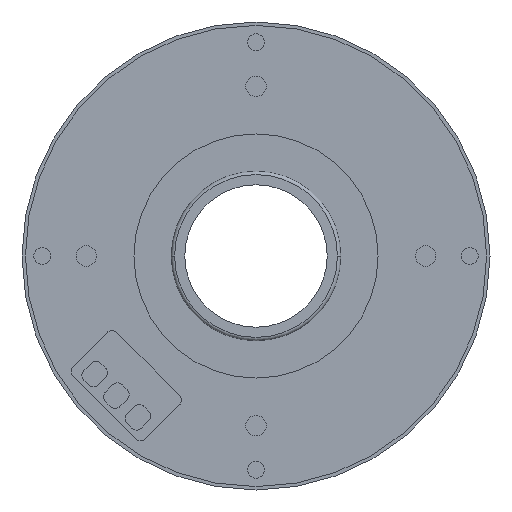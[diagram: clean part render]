
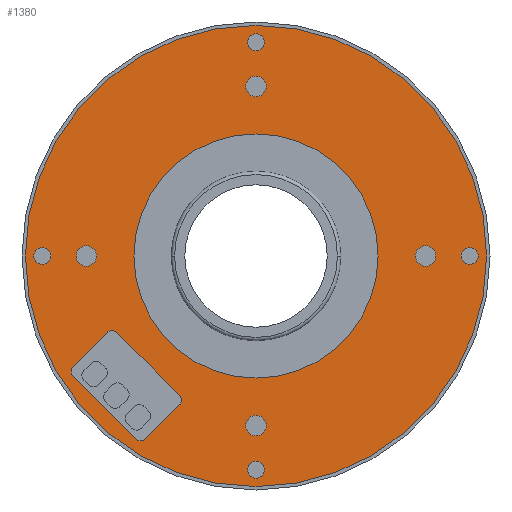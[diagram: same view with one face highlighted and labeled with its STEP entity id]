
A CAD part, front view. The second image highlights one B-rep face of the part: STEP entity #1380.
In plain terms, the highlighted planar face has unit normal (0, -1, 0).
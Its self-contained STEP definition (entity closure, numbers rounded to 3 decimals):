
#1=CARTESIAN_POINT('',(0.,0.,0.));
#2=DIRECTION('',(0.,-1.,0.));
#3=DIRECTION('',(-1.,0.,0.));
#4=AXIS2_PLACEMENT_3D('',#1,#2,#3);
#6=CARTESIAN_POINT('',(0.,0.,0.));
#7=DIRECTION('',(0.,-1.,0.));
#8=DIRECTION('',(1.,0.,0.));
#9=AXIS2_PLACEMENT_3D('',#6,#7,#8);
#11=CARTESIAN_POINT('',(0.,0.,25.));
#12=DIRECTION('',(0.,-1.,0.));
#13=DIRECTION('',(1.,0.,0.));
#14=AXIS2_PLACEMENT_3D('',#11,#12,#13);
#16=CARTESIAN_POINT('',(0.,0.,25.));
#17=DIRECTION('',(0.,-1.,0.));
#18=DIRECTION('',(-1.,0.,0.));
#19=AXIS2_PLACEMENT_3D('',#16,#17,#18);
#21=CARTESIAN_POINT('',(0.,0.,31.5));
#22=DIRECTION('',(0.,-1.,0.));
#23=DIRECTION('',(1.,0.,0.));
#24=AXIS2_PLACEMENT_3D('',#21,#22,#23);
#26=CARTESIAN_POINT('',(0.,0.,31.5));
#27=DIRECTION('',(0.,-1.,0.));
#28=DIRECTION('',(-1.,0.,0.));
#29=AXIS2_PLACEMENT_3D('',#26,#27,#28);
#31=CARTESIAN_POINT('',(25.,0.,0.));
#32=DIRECTION('',(0.,-1.,0.));
#33=DIRECTION('',(0.,0.,-1.));
#34=AXIS2_PLACEMENT_3D('',#31,#32,#33);
#36=CARTESIAN_POINT('',(25.,0.,0.));
#37=DIRECTION('',(0.,-1.,0.));
#38=DIRECTION('',(0.,0.,1.));
#39=AXIS2_PLACEMENT_3D('',#36,#37,#38);
#41=CARTESIAN_POINT('',(31.5,0.,0.));
#42=DIRECTION('',(0.,-1.,0.));
#43=DIRECTION('',(0.,0.,-1.));
#44=AXIS2_PLACEMENT_3D('',#41,#42,#43);
#46=CARTESIAN_POINT('',(31.5,0.,0.));
#47=DIRECTION('',(0.,-1.,0.));
#48=DIRECTION('',(0.,0.,1.));
#49=AXIS2_PLACEMENT_3D('',#46,#47,#48);
#51=CARTESIAN_POINT('',(0.,0.,-25.));
#52=DIRECTION('',(0.,-1.,0.));
#53=DIRECTION('',(-1.,0.,0.));
#54=AXIS2_PLACEMENT_3D('',#51,#52,#53);
#56=CARTESIAN_POINT('',(0.,0.,-25.));
#57=DIRECTION('',(0.,-1.,0.));
#58=DIRECTION('',(1.,0.,0.));
#59=AXIS2_PLACEMENT_3D('',#56,#57,#58);
#61=CARTESIAN_POINT('',(0.,0.,-31.5));
#62=DIRECTION('',(0.,-1.,0.));
#63=DIRECTION('',(-1.,0.,0.));
#64=AXIS2_PLACEMENT_3D('',#61,#62,#63);
#66=CARTESIAN_POINT('',(0.,0.,-31.5));
#67=DIRECTION('',(0.,-1.,0.));
#68=DIRECTION('',(1.,0.,0.));
#69=AXIS2_PLACEMENT_3D('',#66,#67,#68);
#71=CARTESIAN_POINT('',(-25.,0.,0.));
#72=DIRECTION('',(0.,-1.,0.));
#73=DIRECTION('',(0.,0.,1.));
#74=AXIS2_PLACEMENT_3D('',#71,#72,#73);
#76=CARTESIAN_POINT('',(-25.,0.,0.));
#77=DIRECTION('',(0.,-1.,0.));
#78=DIRECTION('',(0.,0.,-1.));
#79=AXIS2_PLACEMENT_3D('',#76,#77,#78);
#81=CARTESIAN_POINT('',(-31.5,0.,0.));
#82=DIRECTION('',(0.,-1.,0.));
#83=DIRECTION('',(0.,0.,1.));
#84=AXIS2_PLACEMENT_3D('',#81,#82,#83);
#86=CARTESIAN_POINT('',(-31.5,0.,0.));
#87=DIRECTION('',(0.,-1.,0.));
#88=DIRECTION('',(0.,0.,-1.));
#89=AXIS2_PLACEMENT_3D('',#86,#87,#88);
#91=CARTESIAN_POINT('',(0.,0.,0.));
#92=DIRECTION('',(0.,-1.,0.));
#93=DIRECTION('',(1.,0.,0.));
#94=AXIS2_PLACEMENT_3D('',#91,#92,#93);
#96=CARTESIAN_POINT('',(0.,0.,0.));
#97=DIRECTION('',(0.,-1.,0.));
#98=DIRECTION('',(-1.,0.,0.));
#99=AXIS2_PLACEMENT_3D('',#96,#97,#98);
#121=CARTESIAN_POINT('',(-21.249,0.,-11.985));
#122=DIRECTION('',(0.,-1.,0.));
#123=DIRECTION('',(0.707,0.,0.707));
#124=AXIS2_PLACEMENT_3D('',#121,#122,#123);
#126=DIRECTION('',(-0.707,0.,-0.707));
#127=VECTOR('',#126,7.1);
#128=CARTESIAN_POINT('',(-21.956,0.,-11.278));
#129=LINE('',#128,#127);
#130=CARTESIAN_POINT('',(-26.269,0.,-17.006));
#131=DIRECTION('',(0.,-1.,0.));
#132=DIRECTION('',(-0.707,0.,0.707));
#133=AXIS2_PLACEMENT_3D('',#130,#131,#132);
#135=DIRECTION('',(0.707,0.,-0.707));
#136=VECTOR('',#135,13.1);
#137=CARTESIAN_POINT('',(-26.976,0.,-17.713));
#138=LINE('',#137,#136);
#139=CARTESIAN_POINT('',(-17.006,0.,-26.269));
#140=DIRECTION('',(0.,-1.,0.));
#141=DIRECTION('',(-0.707,0.,-0.707));
#142=AXIS2_PLACEMENT_3D('',#139,#140,#141);
#144=DIRECTION('',(0.707,0.,0.707));
#145=VECTOR('',#144,7.1);
#146=CARTESIAN_POINT('',(-16.299,0.,-26.976));
#147=LINE('',#146,#145);
#148=CARTESIAN_POINT('',(-11.985,0.,-21.249));
#149=DIRECTION('',(0.,-1.,0.));
#150=DIRECTION('',(0.707,0.,-0.707));
#151=AXIS2_PLACEMENT_3D('',#148,#149,#150);
#153=DIRECTION('',(-0.707,0.,0.707));
#154=VECTOR('',#153,13.1);
#155=CARTESIAN_POINT('',(-11.278,0.,-20.541));
#156=LINE('',#155,#154);
#1049=CARTESIAN_POINT('',(-34.,0.,0.));
#1050=CARTESIAN_POINT('',(34.,0.,0.));
#1051=VERTEX_POINT('',#1049);
#1052=VERTEX_POINT('',#1050);
#1065=CARTESIAN_POINT('',(1.5,0.,25.));
#1066=CARTESIAN_POINT('',(-1.5,0.,25.));
#1067=VERTEX_POINT('',#1065);
#1068=VERTEX_POINT('',#1066);
#1069=CARTESIAN_POINT('',(1.25,0.,31.5));
#1070=CARTESIAN_POINT('',(-1.25,0.,31.5));
#1071=VERTEX_POINT('',#1069);
#1072=VERTEX_POINT('',#1070);
#1081=CARTESIAN_POINT('',(25.,0.,-1.5));
#1082=CARTESIAN_POINT('',(25.,0.,1.5));
#1083=VERTEX_POINT('',#1081);
#1084=VERTEX_POINT('',#1082);
#1085=CARTESIAN_POINT('',(31.5,0.,-1.25));
#1086=CARTESIAN_POINT('',(31.5,0.,1.25));
#1087=VERTEX_POINT('',#1085);
#1088=VERTEX_POINT('',#1086);
#1097=CARTESIAN_POINT('',(-1.5,0.,-25.));
#1098=CARTESIAN_POINT('',(1.5,0.,-25.));
#1099=VERTEX_POINT('',#1097);
#1100=VERTEX_POINT('',#1098);
#1101=CARTESIAN_POINT('',(-1.25,0.,-31.5));
#1102=CARTESIAN_POINT('',(1.25,0.,-31.5));
#1103=VERTEX_POINT('',#1101);
#1104=VERTEX_POINT('',#1102);
#1113=CARTESIAN_POINT('',(-25.,0.,1.5));
#1114=CARTESIAN_POINT('',(-25.,0.,-1.5));
#1115=VERTEX_POINT('',#1113);
#1116=VERTEX_POINT('',#1114);
#1117=CARTESIAN_POINT('',(-31.5,0.,1.25));
#1118=CARTESIAN_POINT('',(-31.5,0.,-1.25));
#1119=VERTEX_POINT('',#1117);
#1120=VERTEX_POINT('',#1118);
#1129=CARTESIAN_POINT('',(18.,0.,0.));
#1130=CARTESIAN_POINT('',(-18.,0.,0.));
#1131=VERTEX_POINT('',#1129);
#1132=VERTEX_POINT('',#1130);
#1169=CARTESIAN_POINT('',(-20.541,0.,-11.278));
#1170=CARTESIAN_POINT('',(-21.956,0.,-11.278));
#1171=VERTEX_POINT('',#1169);
#1172=VERTEX_POINT('',#1170);
#1173=CARTESIAN_POINT('',(-26.976,0.,-16.299));
#1174=VERTEX_POINT('',#1173);
#1175=CARTESIAN_POINT('',(-26.976,0.,-17.713));
#1176=VERTEX_POINT('',#1175);
#1177=CARTESIAN_POINT('',(-17.713,0.,-26.976));
#1178=VERTEX_POINT('',#1177);
#1179=CARTESIAN_POINT('',(-16.299,0.,-26.976));
#1180=VERTEX_POINT('',#1179);
#1181=CARTESIAN_POINT('',(-11.278,0.,-21.956));
#1182=VERTEX_POINT('',#1181);
#1183=CARTESIAN_POINT('',(-11.278,0.,-20.541));
#1184=VERTEX_POINT('',#1183);
#1297=CARTESIAN_POINT('',(0.,0.,0.));
#1298=DIRECTION('',(0.,1.,0.));
#1299=DIRECTION('',(1.,0.,0.));
#1300=AXIS2_PLACEMENT_3D('',#1297,#1298,#1299);
#1301=PLANE('',#1300);
#1303=ORIENTED_EDGE('',*,*,#1302,.F.);
#1305=ORIENTED_EDGE('',*,*,#1304,.F.);
#1306=EDGE_LOOP('',(#1303,#1305));
#1307=FACE_OUTER_BOUND('',#1306,.F.);
#1309=ORIENTED_EDGE('',*,*,#1308,.T.);
#1311=ORIENTED_EDGE('',*,*,#1310,.T.);
#1312=EDGE_LOOP('',(#1309,#1311));
#1313=FACE_BOUND('',#1312,.F.);
#1315=ORIENTED_EDGE('',*,*,#1314,.T.);
#1317=ORIENTED_EDGE('',*,*,#1316,.T.);
#1318=EDGE_LOOP('',(#1315,#1317));
#1319=FACE_BOUND('',#1318,.F.);
#1321=ORIENTED_EDGE('',*,*,#1320,.T.);
#1323=ORIENTED_EDGE('',*,*,#1322,.T.);
#1324=EDGE_LOOP('',(#1321,#1323));
#1325=FACE_BOUND('',#1324,.F.);
#1327=ORIENTED_EDGE('',*,*,#1326,.T.);
#1329=ORIENTED_EDGE('',*,*,#1328,.T.);
#1330=EDGE_LOOP('',(#1327,#1329));
#1331=FACE_BOUND('',#1330,.F.);
#1333=ORIENTED_EDGE('',*,*,#1332,.T.);
#1335=ORIENTED_EDGE('',*,*,#1334,.T.);
#1336=EDGE_LOOP('',(#1333,#1335));
#1337=FACE_BOUND('',#1336,.F.);
#1339=ORIENTED_EDGE('',*,*,#1338,.T.);
#1341=ORIENTED_EDGE('',*,*,#1340,.T.);
#1342=EDGE_LOOP('',(#1339,#1341));
#1343=FACE_BOUND('',#1342,.F.);
#1345=ORIENTED_EDGE('',*,*,#1344,.T.);
#1347=ORIENTED_EDGE('',*,*,#1346,.T.);
#1348=EDGE_LOOP('',(#1345,#1347));
#1349=FACE_BOUND('',#1348,.F.);
#1351=ORIENTED_EDGE('',*,*,#1350,.T.);
#1353=ORIENTED_EDGE('',*,*,#1352,.T.);
#1354=EDGE_LOOP('',(#1351,#1353));
#1355=FACE_BOUND('',#1354,.F.);
#1357=ORIENTED_EDGE('',*,*,#1356,.T.);
#1359=ORIENTED_EDGE('',*,*,#1358,.T.);
#1360=EDGE_LOOP('',(#1357,#1359));
#1361=FACE_BOUND('',#1360,.F.);
#1363=ORIENTED_EDGE('',*,*,#1362,.T.);
#1365=ORIENTED_EDGE('',*,*,#1364,.T.);
#1367=ORIENTED_EDGE('',*,*,#1366,.T.);
#1369=ORIENTED_EDGE('',*,*,#1368,.T.);
#1371=ORIENTED_EDGE('',*,*,#1370,.T.);
#1373=ORIENTED_EDGE('',*,*,#1372,.T.);
#1375=ORIENTED_EDGE('',*,*,#1374,.T.);
#1377=ORIENTED_EDGE('',*,*,#1376,.T.);
#1378=EDGE_LOOP('',(#1363,#1365,#1367,#1369,#1371,#1373,#1375,#1377));
#1379=FACE_BOUND('',#1378,.F.);
#5=CIRCLE('',#4,34.);
#10=CIRCLE('',#9,34.);
#15=CIRCLE('',#14,1.5);
#20=CIRCLE('',#19,1.5);
#25=CIRCLE('',#24,1.25);
#30=CIRCLE('',#29,1.25);
#35=CIRCLE('',#34,1.5);
#40=CIRCLE('',#39,1.5);
#45=CIRCLE('',#44,1.25);
#50=CIRCLE('',#49,1.25);
#55=CIRCLE('',#54,1.5);
#60=CIRCLE('',#59,1.5);
#65=CIRCLE('',#64,1.25);
#70=CIRCLE('',#69,1.25);
#75=CIRCLE('',#74,1.5);
#80=CIRCLE('',#79,1.5);
#85=CIRCLE('',#84,1.25);
#90=CIRCLE('',#89,1.25);
#95=CIRCLE('',#94,18.);
#100=CIRCLE('',#99,18.);
#125=CIRCLE('',#124,1.);
#134=CIRCLE('',#133,1.);
#143=CIRCLE('',#142,1.);
#152=CIRCLE('',#151,1.);
#1302=EDGE_CURVE('',#1051,#1052,#5,.T.);
#1304=EDGE_CURVE('',#1052,#1051,#10,.T.);
#1308=EDGE_CURVE('',#1067,#1068,#15,.T.);
#1310=EDGE_CURVE('',#1068,#1067,#20,.T.);
#1314=EDGE_CURVE('',#1071,#1072,#25,.T.);
#1316=EDGE_CURVE('',#1072,#1071,#30,.T.);
#1320=EDGE_CURVE('',#1083,#1084,#35,.T.);
#1322=EDGE_CURVE('',#1084,#1083,#40,.T.);
#1326=EDGE_CURVE('',#1087,#1088,#45,.T.);
#1328=EDGE_CURVE('',#1088,#1087,#50,.T.);
#1332=EDGE_CURVE('',#1099,#1100,#55,.T.);
#1334=EDGE_CURVE('',#1100,#1099,#60,.T.);
#1338=EDGE_CURVE('',#1103,#1104,#65,.T.);
#1340=EDGE_CURVE('',#1104,#1103,#70,.T.);
#1344=EDGE_CURVE('',#1115,#1116,#75,.T.);
#1346=EDGE_CURVE('',#1116,#1115,#80,.T.);
#1350=EDGE_CURVE('',#1119,#1120,#85,.T.);
#1352=EDGE_CURVE('',#1120,#1119,#90,.T.);
#1356=EDGE_CURVE('',#1131,#1132,#95,.T.);
#1358=EDGE_CURVE('',#1132,#1131,#100,.T.);
#1362=EDGE_CURVE('',#1171,#1172,#125,.T.);
#1364=EDGE_CURVE('',#1172,#1174,#129,.T.);
#1366=EDGE_CURVE('',#1174,#1176,#134,.T.);
#1368=EDGE_CURVE('',#1176,#1178,#138,.T.);
#1370=EDGE_CURVE('',#1178,#1180,#143,.T.);
#1372=EDGE_CURVE('',#1180,#1182,#147,.T.);
#1374=EDGE_CURVE('',#1182,#1184,#152,.T.);
#1376=EDGE_CURVE('',#1184,#1171,#156,.T.);
#1380=ADVANCED_FACE('',(#1307,#1313,#1319,#1325,#1331,#1337,#1343,#1349,#1355,
#1361,#1379),#1301,.F.);
